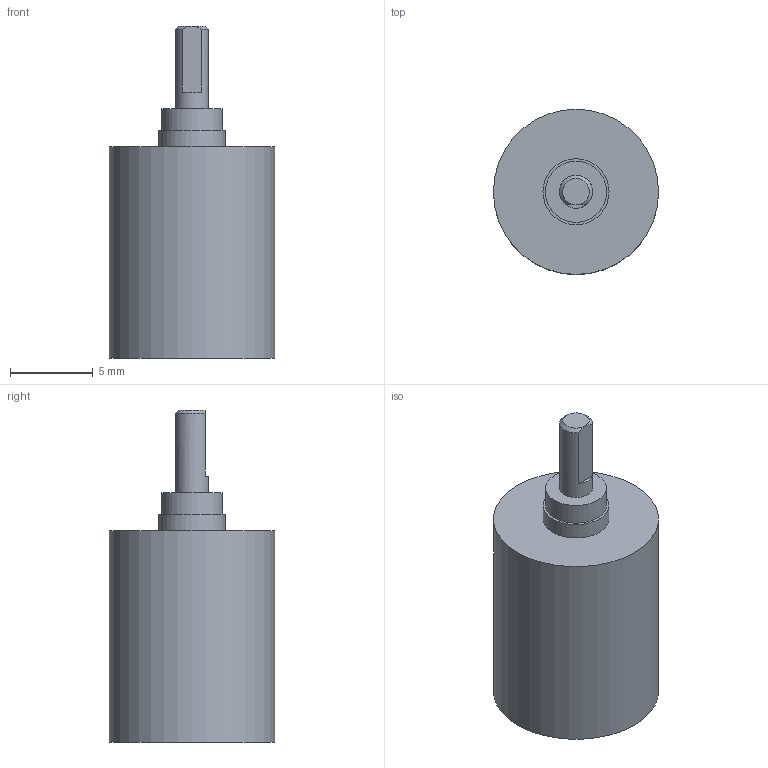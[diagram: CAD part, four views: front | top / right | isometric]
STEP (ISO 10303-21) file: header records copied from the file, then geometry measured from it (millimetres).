
FILE_DESCRIPTION(/* description */ (''),/* implementation_level */ '2;1');
FILE_NAME(/* name */ '10-1_2.stp',/* time_stamp */ '2016-08-24T08:13:08+02:00',/* author */ ('DR. FRITZ FAULHABER GmbH & Co. KG'),/* organization */ ('DR. FRITZ FAULHABER GmbH & Co. KG'),/* preprocessor_version */ 'ST-DEVELOPER v16',/* originating_system */ 'SIEMENS PLM Software NX 10.0',/* authorisation */ '');
FILE_SCHEMA (('AUTOMOTIVE_DESIGN { 1 0 10303 214 3 1 1 1 }'));
Length unit declared in the file: millimetre
Products named in the file (1): H00000408_A
Bounding box: 10 x 10 x 20.1 mm (x, y, z)
Volume: 960.1 mm3; surface area: 687 mm2
Topology: 1 solids, 1 shells, 20 faces, 36 edges, 24 vertices
Faces by surface type: plane 10, cylinder 8, cone 2
Full cylindrical faces by diameter (mm): 2 x1, 3.12 x1, 3.32 x1, 3.7 x1, 4 x1, 4.959 x1, 6 x1, 10 x1
Entity records: 452 total; most frequent: DIRECTION 81, CARTESIAN_POINT 79, ORIENTED_EDGE 46, AXIS2_PLACEMENT_3D 39, EDGE_LOOP 35, FACE_BOUND 30, EDGE_CURVE 23, ADVANCED_FACE 20
